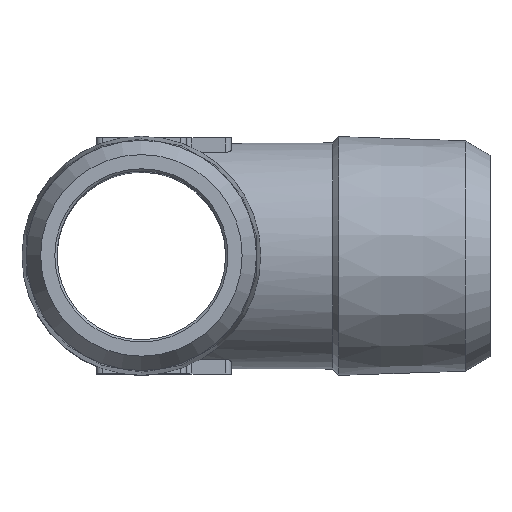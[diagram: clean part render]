
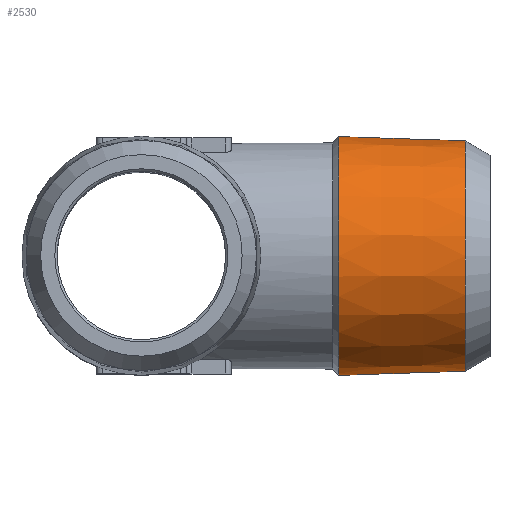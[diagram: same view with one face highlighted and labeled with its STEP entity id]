
A CAD part, top view. The second image highlights one B-rep face of the part: STEP entity #2530.
In plain terms, the highlighted conical face has half-angle 1.918 degrees and reference radius 10.634 mm.
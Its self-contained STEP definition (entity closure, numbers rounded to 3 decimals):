
#1284=CONICAL_SURFACE('',#2430,10.634,1.918);
#1512=ORIENTED_EDGE('',*,*,#1878,.F.);
#1513=ORIENTED_EDGE('',*,*,#1879,.F.);
#1722=CIRCLE('',#2431,10.239);
#1723=CIRCLE('',#2432,10.615);
#1787=VERTEX_POINT('',#4337);
#1788=VERTEX_POINT('',#4339);
#1878=EDGE_CURVE('',#1787,#1787,#1722,.T.);
#1879=EDGE_CURVE('',#1788,#1788,#1723,.T.);
#1996=EDGE_LOOP('',(#1512));
#1997=EDGE_LOOP('',(#1513));
#2076=FACE_BOUND('',#1996,.T.);
#2077=FACE_BOUND('',#1997,.T.);
#2210=DIRECTION('',(-1.,0.,0.));
#2211=DIRECTION('',(0.,0.,1.));
#2212=DIRECTION('',(1.,0.,0.));
#2213=DIRECTION('',(0.,0.,10.239));
#2214=DIRECTION('',(-1.,0.,0.));
#2215=DIRECTION('',(0.,0.,10.615));
#2430=AXIS2_PLACEMENT_3D('',#4336,#2210,#2211);
#2431=AXIS2_PLACEMENT_3D('',#4338,#2212,#2213);
#2432=AXIS2_PLACEMENT_3D('',#4340,#2214,#2215);
#2530=ADVANCED_FACE('',(#2076,#2077),#1284,.T.);
#4336=CARTESIAN_POINT('',(26.56,35.363,0.));
#4337=CARTESIAN_POINT('',(38.351,35.363,10.239));
#4338=CARTESIAN_POINT('',(38.351,35.363,0.));
#4339=CARTESIAN_POINT('',(27.123,35.363,10.615));
#4340=CARTESIAN_POINT('',(27.123,35.363,0.));
